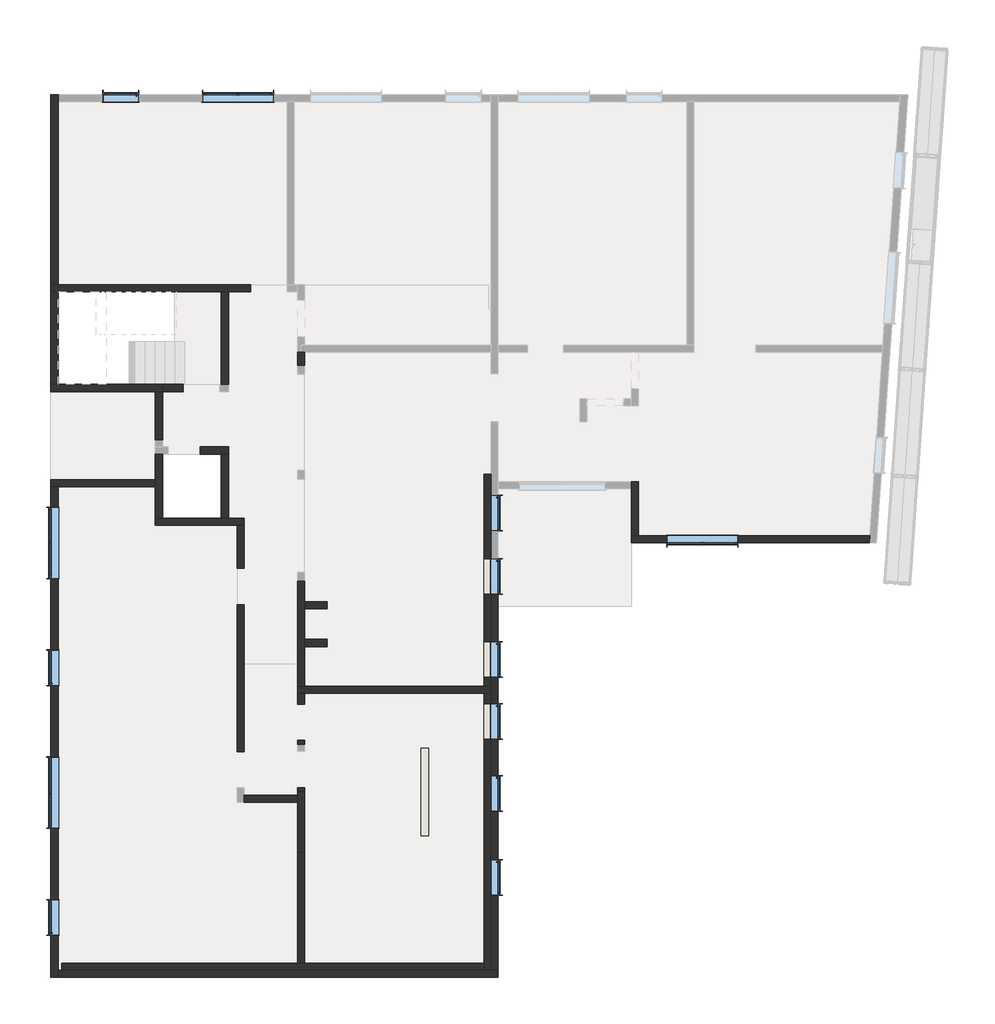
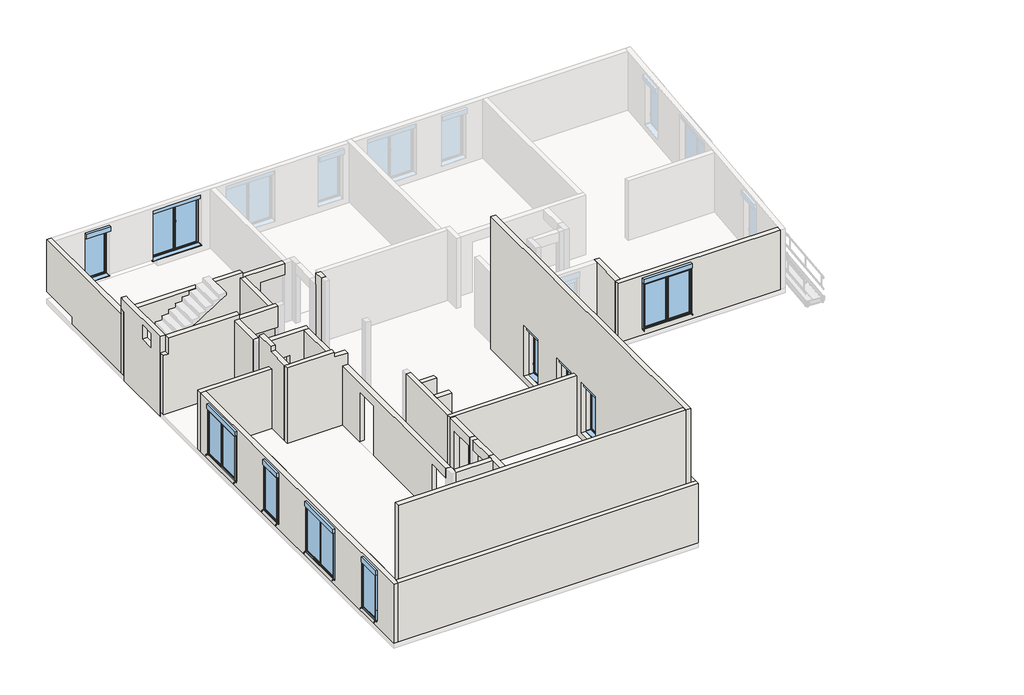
# One storey, part 1 of 3: 33 walls, 13 windows.
"""IFC4 building model written with IfcOpenShell, lengths in millimetres."""

from ifc_helpers import new_model, si_unit, frame, origin, place, context, project, spatial, polyline, outline, extrude, faceted_brep, transform, mapped, element, save
from components import window_200x100_8459d8a5, window_200x100_a15cc3b6, window_200x200_ecfd3ef9

model = new_model("IFC4")

# Units and contexts
model_context = context("Model", 3, world=origin())
ifc_project = project(units=[si_unit("LENGTHUNIT", "METRE", prefix="MILLI")], contexts=[model_context])

# Site, building, storey
site = spatial("IfcSite", under=ifc_project)
building = spatial("IfcBuilding", under=site)
storey = spatial("IfcBuildingStorey", under=building, Name="07-Plateau 7", Elevation=12400.0)

# Walls
placement = place(None, origin())
element("IfcWall", 1, ObjectType="Voile Banché 20 cm", at=placement, inside=storey, context=model_context, shape_type="Brep", body=[
    faceted_brep([(1012.9552204, -2140.1377724, 12250.0), (1012.9552204, -530.1377724, 12250.0), (1012.9552204, -530.1377724, 12570.0), (1012.9552204, -530.1377724, 15150.0), (1012.9552204, -2240.1377724, 15150.0), (1012.9552204, -2240.1377724, 12370.0), (1012.9552204, -2140.1377724, 12370.0), (812.9552204, -2140.1377724, 12250.0), (812.9552204, -2140.1377724, 12370.0), (812.9552204, -2240.1377724, 12370.0), (812.9552204, -2240.1377724, 15150.0), (812.9552204, -830.1377724, 15150.0), (812.9552204, -630.1377724, 15150.0), (812.9552204, -530.1377724, 15150.0), (812.9552204, -530.1377724, 12570.0), (812.9552204, -530.1377724, 12250.0)], [[[0, 1, 2, 3, 4, 5, 6]], [[7, 8, 9, 10, 11, 12, 13, 14, 15]], [[1, 0, 7, 15]], [[3, 2, 1, 15, 14, 13]], [[5, 4, 10, 9]], [[5, 9, 8, 6]], [[0, 6, 8, 7]], [[4, 3, 13, 12, 11, 10]]]),
])
element("IfcWall", 2, ObjectType="Voile Banché 20 cm", at=placement, inside=storey, context=model_context, shape_type="Brep", body=[
    faceted_brep([(1012.9552204, 2209.8622276, 12250.0), (1012.9552204, 2224.8622276, 12250.0), (1012.9552204, 2224.8622276, 15150.0), (1012.9552204, 2209.8622276, 15150.0), (1012.9552204, 2209.8622276, 12570.0), (812.9552204, 2209.8622276, 12250.0), (812.9552204, 2209.8622276, 12570.0), (812.9552204, 2209.8622276, 15150.0), (812.9552204, 2224.8622276, 15150.0), (812.9552204, 2224.8622276, 12370.0), (812.9552204, 2224.8622276, 12250.0)], [[[0, 1, 2, 3, 4]], [[5, 6, 7, 8, 9, 10]], [[1, 0, 5, 10]], [[0, 4, 3, 7, 6, 5]], [[2, 1, 10, 9, 8]], [[3, 2, 8, 7]]]),
])
element("IfcWall", 3, ObjectType="Voile Banché 20 cm", at=placement, inside=storey, context=model_context, shape_type="Brep", body=[
    faceted_brep([(-1227.0447796, 13479.8622276, 15350.0), (-5907.0447796, 13479.8622276, 15350.0), (-6107.0447796, 13479.8622276, 15350.0), (-6107.0447796, 13479.8622276, 15150.0), (-6107.0447796, 13479.8622276, 12570.0), (-1327.0447796, 13479.8622276, 12570.0), (-1127.0447796, 13479.8622276, 12570.0), (-498.4008372, 13479.8622276, 12570.0), (-498.4008372, 13479.8622276, 14668.9628566), (512.1565492, 13479.8622276, 14668.9628566), (512.1565492, 13479.8622276, 15150.0), (-1127.0447796, 13479.8622276, 15150.0), (-1227.0447796, 13479.8622276, 15150.0), (-6107.0447796, 13679.8622276, 12570.0), (-6107.0447796, 13679.8622276, 15150.0), (-6107.0447796, 13679.8622276, 15350.0), (-1227.0447796, 13679.8622276, 15350.0), (-1227.0447796, 13679.8622276, 15150.0), (512.1565492, 13679.8622276, 15150.0), (512.1565492, 13679.8622276, 14668.9628566), (-498.4008372, 13679.8622276, 14668.9628566), (-498.4008372, 13679.8622276, 12570.0), (-5907.0447796, 13679.8622276, 12570.0), (-6107.0447796, 13579.8622276, 15350.0)], [[[0, 1, 2, 3, 4, 5, 6, 7, 8, 9, 10, 11, 12]], [[13, 14, 15, 16, 17, 18, 19, 20, 21, 22]], [[8, 20, 19, 9]], [[20, 8, 7, 21]], [[2, 23, 15, 14, 13, 4, 3]], [[4, 13, 22, 21, 7, 6, 5]], [[18, 10, 9, 19]], [[2, 1, 0, 16, 15, 23]], [[0, 12, 17, 16]], [[12, 11, 10, 18, 17]]]),
])
element("IfcWall", 4, ObjectType="Voile Banché 20 cm", at=placement, inside=storey, context=model_context, shape_type="Brep", body=[
    faceted_brep([(16855.2742838, 6643.530828, 12570.0), (10373.5257924, 6643.530828, 12570.0), (10173.5257924, 6643.530828, 12570.0), (10173.5257924, 6643.530828, 15150.0), (10373.5257924, 6643.530828, 15150.0), (16855.2742838, 6643.530828, 15150.0), (13163.7774438, 6643.530828, 12840.0), (13163.7774438, 6643.530828, 15040.0), (11163.7774438, 6643.530828, 15040.0), (11163.7774438, 6643.530828, 12840.0), (10173.5257924, 6443.530828, 12570.0), (16841.2889214, 6443.530828, 12570.0), (16841.2889214, 6443.530828, 15150.0), (10173.5257924, 6443.530828, 15150.0), (10173.5257924, 6443.530828, 12590.0), (13163.7774438, 6443.530828, 15040.0), (13163.7774438, 6443.530828, 12840.0), (11163.7774438, 6443.530828, 12840.0), (11163.7774438, 6443.530828, 15040.0)], [[[0, 1, 2, 3, 4, 5], [6, 7, 8, 9]], [[10, 11, 12, 13, 14], [15, 16, 17, 18]], [[2, 1, 0, 11, 10]], [[3, 2, 10, 14, 13]], [[0, 5, 12, 11]], [[5, 4, 3, 13, 12]], [[6, 16, 15, 7]], [[7, 15, 18, 8]], [[8, 18, 17, 9]], [[16, 6, 9, 17]]]),
])
element("IfcWall", 5, ObjectType="Voile Banché 20 cm", at=placement, inside=storey, context=model_context, shape_type="Brep", body=[
    faceted_brep([(10373.5257924, 6643.530828, 12570.0), (10373.5257924, 8159.8622276, 12570.0), (10373.5257924, 8159.8622276, 15150.0), (10373.5257924, 6643.530828, 15150.0), (10173.5257924, 6643.530828, 12570.0), (10173.5257924, 6643.530828, 15150.0), (10173.5257924, 7959.8622276, 15150.0), (10173.5257924, 8159.8622276, 15150.0), (10173.5257924, 8159.8622276, 12570.0), (10173.5257924, 7959.8622276, 12570.0)], [[[0, 1, 2, 3]], [[4, 5, 6, 7, 8, 9]], [[1, 0, 4, 9, 8]], [[0, 3, 5, 4]], [[2, 1, 8, 7]], [[3, 2, 7, 6, 5]]]),
])
element("IfcWall", 6, ObjectType="Voile Banché 20 cm", at=placement, inside=storey, context=model_context, shape_type="Brep", body=[
    faceted_brep([(-6107.0447796, 18999.8622276, 12900.0), (-6107.0447796, 17149.8622276, 12900.0), (-6107.0447796, 17149.8622276, 12570.0), (-6107.0447796, 13679.8622276, 12570.0), (-6107.0447796, 13679.8622276, 15150.0), (-6107.0447796, 18999.8622276, 15150.0), (-5907.0447796, 18999.8622276, 12900.0), (-5907.0447796, 18999.8622276, 15150.0), (-5907.0447796, 18799.8622276, 15150.0), (-5907.0447796, 13679.8622276, 15150.0), (-5907.0447796, 13679.8622276, 12570.0), (-5907.0447796, 17149.8622276, 12570.0), (-5907.0447796, 17149.8622276, 12900.0), (-5907.0447796, 18799.8622276, 12900.0)], [[[0, 1, 2, 3, 4, 5]], [[6, 7, 8, 9, 10, 11, 12, 13]], [[0, 5, 7, 6]], [[4, 3, 10, 9]], [[5, 4, 9, 8, 7]], [[3, 2, 11, 10]], [[1, 0, 6, 13, 12]], [[2, 1, 12, 11]]]),
])
element("IfcWall", 7, ObjectType="Voile Banché 20 cm", at=placement, inside=storey, context=model_context, shape_type="Brep", body=[
    faceted_brep([(-6107.0447796, 10679.8622276, 12570.0), (-5907.0447796, 10679.8622276, 12570.0), (-3177.0447796, 10679.8622276, 12570.0), (-2977.0447796, 10679.8622276, 12570.0), (-2977.0447796, 10679.8622276, 15650.0), (-2977.0447796, 10679.8622276, 15850.0), (-5907.0447796, 10679.8622276, 15850.0), (-5907.0447796, 10679.8622276, 15760.0), (-5907.0447796, 10679.8622276, 15150.0), (-6107.0447796, 10679.8622276, 15150.0), (-6107.0447796, 10679.8622276, 12910.0), (-6107.0447796, 10879.8622276, 12570.0), (-6107.0447796, 10879.8622276, 15150.0), (-5907.0447796, 10879.8622276, 15150.0), (-5907.0447796, 10879.8622276, 15850.0), (-2977.0447796, 10879.8622276, 15850.0), (-2977.0447796, 10879.8622276, 15650.0), (-2977.0447796, 10879.8622276, 12570.0)], [[[0, 1, 2, 3, 4, 5, 6, 7, 8, 9, 10]], [[11, 12, 13, 14, 15, 16, 17]], [[5, 4, 3, 17, 16, 15]], [[3, 2, 1, 0, 11, 17]], [[6, 5, 15, 14]], [[0, 10, 9, 12, 11]], [[6, 14, 13, 8, 7]], [[8, 13, 12, 9]]]),
])
element("IfcWall", 8, ObjectType="Voile Banché 20 cm", at=placement, inside=storey, context=model_context, shape_type="SweptSolid", body=[
    extrude(outline(polyline([(-3177.0447796, 9329.8622276), (-3177.0447796, 10679.8622276), (-2977.0447796, 10679.8622276), (-2977.0447796, 9329.8622276), (-3177.0447796, 9329.8622276)])), frame((0.0, 0.0, 12570.0), z_axis=(0.0, 0.0, 1.0), x_axis=(1.0, 0.0, 0.0)), (0.0, 0.0, 1.0), 3080.0),
])
element("IfcWall", 9, ObjectType="Voile Banché 20 cm", at=placement, inside=storey, context=model_context, shape_type="Brep", body=[
    faceted_brep([(-1127.0447796, 8929.8622276, 12570.0), (-1127.0447796, 8929.8622276, 15650.0), (-1327.0447796, 8929.8622276, 15650.0), (-2817.0447796, 8929.8622276, 15650.0), (-2817.0447796, 8929.8622276, 14740.0), (-1917.0447796, 8929.8622276, 14740.0), (-1917.0447796, 8929.8622276, 12570.0), (-1327.0447796, 8929.8622276, 12570.0), (-1127.0447796, 9129.8622276, 15650.0), (-1127.0447796, 9129.8622276, 12570.0), (-1917.0447796, 9129.8622276, 12570.0), (-1917.0447796, 9129.8622276, 14740.0), (-2817.0447796, 9129.8622276, 14740.0), (-2817.0447796, 9129.8622276, 15650.0)], [[[0, 1, 2, 3, 4, 5, 6, 7]], [[8, 9, 10, 11, 12, 13]], [[9, 0, 7, 6, 10]], [[3, 13, 12, 4]], [[11, 5, 4, 12]], [[5, 11, 10, 6]], [[1, 0, 9, 8]], [[3, 2, 1, 8, 13]]]),
])
element("IfcWall", 10, ObjectType="Voile Banché 20 cm", at=placement, inside=storey, context=model_context, shape_type="Brep", body=[
    faceted_brep([(-6107.0447796, 8009.8622276, 12570.0), (-6107.0447796, -5740.1377724, 12570.0), (-6107.0447796, -5740.1377724, 15150.0), (-6107.0447796, 8009.8622276, 15150.0), (-6107.0447796, 2439.8622276, 15040.0), (-6107.0447796, 2439.8622276, 12840.0), (-6107.0447796, 3439.8622276, 12840.0), (-6107.0447796, 3439.8622276, 15040.0), (-6107.0447796, -4560.1377724, 15040.0), (-6107.0447796, -4560.1377724, 12840.0), (-6107.0447796, -3560.1377724, 12840.0), (-6107.0447796, -3560.1377724, 15040.0), (-6107.0447796, -1560.1377724, 15040.0), (-6107.0447796, -1560.1377724, 12840.0), (-6107.0447796, 439.8622276, 12840.0), (-6107.0447796, 439.8622276, 15040.0), (-6107.0447796, 5439.8622276, 15040.0), (-6107.0447796, 5439.8622276, 12840.0), (-6107.0447796, 7439.8622276, 12840.0), (-6107.0447796, 7439.8622276, 15040.0), (-5907.0447796, -5740.1377724, 12570.0), (-5907.0447796, -5540.1377724, 12570.0), (-5907.0447796, 8009.8622276, 12570.0), (-5907.0447796, 8009.8622276, 15150.0), (-5907.0447796, -5540.1377724, 15150.0), (-5907.0447796, -5740.1377724, 15150.0), (-5907.0447796, 2439.8622276, 12840.0), (-5907.0447796, 2439.8622276, 15040.0), (-5907.0447796, 3439.8622276, 15040.0), (-5907.0447796, 3439.8622276, 12840.0), (-5907.0447796, -4560.1377724, 12840.0), (-5907.0447796, -4560.1377724, 15040.0), (-5907.0447796, -3560.1377724, 15040.0), (-5907.0447796, -3560.1377724, 12840.0), (-5907.0447796, -1560.1377724, 12840.0), (-5907.0447796, -1560.1377724, 15040.0), (-5907.0447796, 439.8622276, 15040.0), (-5907.0447796, 439.8622276, 12840.0), (-5907.0447796, 5439.8622276, 12840.0), (-5907.0447796, 5439.8622276, 15040.0), (-5907.0447796, 7439.8622276, 15040.0), (-5907.0447796, 7439.8622276, 12840.0)], [[[0, 1, 2, 3], [4, 5, 6, 7], [8, 9, 10, 11], [12, 13, 14, 15], [16, 17, 18, 19]], [[20, 21, 22, 23, 24, 25], [26, 27, 28, 29], [30, 31, 32, 33], [34, 35, 36, 37], [38, 39, 40, 41]], [[1, 0, 22, 21, 20]], [[0, 3, 23, 22]], [[2, 1, 20, 25]], [[3, 2, 25, 24, 23]], [[26, 5, 4, 27]], [[27, 4, 7, 28]], [[28, 7, 6, 29]], [[5, 26, 29, 6]], [[30, 9, 8, 31]], [[31, 8, 11, 32]], [[32, 11, 10, 33]], [[9, 30, 33, 10]], [[35, 34, 13, 12]], [[36, 35, 12, 15]], [[37, 36, 15, 14]], [[34, 37, 14, 13]], [[38, 17, 16, 39]], [[39, 16, 19, 40]], [[40, 19, 18, 41]], [[17, 38, 41, 18]]]),
])
element("IfcWall", 11, ObjectType="Voile Banché 20 cm", at=placement, inside=storey, context=model_context, shape_type="Brep", body=[
    faceted_brep([(-5907.0447796, -5740.1377724, 12570.0), (6432.9552204, -5740.1377724, 12570.0), (6432.9552204, -5740.1377724, 15150.0), (-5907.0447796, -5740.1377724, 15150.0), (-5907.0447796, -5540.1377724, 12570.0), (-5907.0447796, -5540.1377724, 15150.0), (812.9552204, -5540.1377724, 15150.0), (1012.9552204, -5540.1377724, 15150.0), (6232.9552204, -5540.1377724, 15150.0), (6432.9552204, -5540.1377724, 15150.0), (6432.9552204, -5540.1377724, 12570.0), (6232.9552204, -5540.1377724, 12570.0)], [[[0, 1, 2, 3]], [[4, 5, 6, 7, 8, 9, 10, 11]], [[1, 0, 4, 11, 10]], [[2, 1, 10, 9]], [[0, 3, 5, 4]], [[3, 2, 9, 8, 7, 6, 5]]]),
])
element("IfcWall", 12, ObjectType="Voile Banché 20 cm", at=placement, inside=storey, context=model_context, shape_type="SweptSolid", body=[
    extrude(outline(polyline([(-430.1377724, 15150.0), (6929.8622276, 15150.0), (6929.8622276, 12570.0), (5729.8622276, 12570.0), (5729.8622276, 14740.0), (4709.8622276, 14740.0), (4709.8622276, 12570.0), (592.8184067, 12570.0), (592.8184067, 14740.0), (-430.1377724, 14740.0), (-430.1377724, 15150.0)])), frame((-887.0447796, 0.0, 0.0), z_axis=(1.0, 0.0, 0.0), x_axis=(0.0, 1.0, 0.0)), (0.0, 0.0, 1.0), 200.0),
])
element("IfcWall", 13, ObjectType="Voile Banché 20 cm", at=placement, inside=storey, context=model_context, shape_type="Brep", body=[
    faceted_brep([(1012.9552204, 2424.8622276, 12570.0), (1012.9552204, 3534.8622276, 12570.0), (1012.9552204, 3734.8622276, 12570.0), (1012.9552204, 4594.8622276, 12570.0), (1012.9552204, 4794.8622276, 12570.0), (1012.9552204, 5362.4340998, 12570.0), (1012.9552204, 5362.4340998, 15150.0), (1012.9552204, 4794.8622276, 15150.0), (1012.9552204, 4594.8622276, 15150.0), (1012.9552204, 3734.8622276, 15150.0), (1012.9552204, 3534.8622276, 15150.0), (1012.9552204, 2424.8622276, 15150.0), (812.9552204, 2424.8622276, 12570.0), (812.9552204, 2424.8622276, 15150.0), (812.9552204, 5362.4340998, 15150.0), (812.9552204, 5362.4340998, 12570.0)], [[[0, 1, 2, 3, 4, 5, 6, 7, 8, 9, 10, 11]], [[12, 13, 14, 15]], [[5, 4, 3, 2, 1, 0, 12, 15]], [[6, 5, 15, 14]], [[0, 11, 13, 12]], [[11, 10, 9, 8, 7, 6, 14, 13]]]),
])
element("IfcWall", 14, ObjectType="Voile Banché 20 cm", at=placement, inside=storey, context=model_context, shape_type="Brep", body=[
    faceted_brep([(-6107.0447796, 8009.8622276, 12570.0), (-5907.0447796, 8009.8622276, 12570.0), (-3177.0447796, 8009.8622276, 12570.0), (-3177.0447796, 8009.8622276, 15150.0), (-5907.0447796, 8009.8622276, 15150.0), (-6107.0447796, 8009.8622276, 15150.0), (-6107.0447796, 8209.8622276, 12570.0), (-6107.0447796, 8209.8622276, 12910.0), (-6107.0447796, 8209.8622276, 15150.0), (-3177.0447796, 8209.8622276, 15150.0), (-3177.0447796, 8209.8622276, 12570.0), (-5907.0447796, 8209.8622276, 12570.0)], [[[0, 1, 2, 3, 4, 5]], [[6, 7, 8, 9, 10, 11]], [[2, 1, 0, 6, 11, 10]], [[0, 5, 8, 7, 6]], [[5, 4, 3, 9, 8]], [[3, 2, 10, 9]]]),
])
element("IfcWall", 15, ObjectType="Voile Banché 20 cm", at=placement, inside=storey, context=model_context, shape_type="Brep", body=[
    faceted_brep([(-687.0447796, 7129.8622276, 12570.0), (-1127.0447796, 7129.8622276, 12570.0), (-1327.0447796, 7129.8622276, 12570.0), (-2977.0447796, 7129.8622276, 12570.0), (-3177.0447796, 7129.8622276, 12570.0), (-3177.0447796, 7129.8622276, 15370.0), (-3177.0447796, 7129.8622276, 15850.0), (-2977.0447796, 7129.8622276, 15850.0), (-1227.0447796, 7129.8622276, 15850.0), (-1227.0447796, 7129.8622276, 15650.0), (-1127.0447796, 7129.8622276, 15650.0), (-687.0447796, 7129.8622276, 15650.0), (-687.0447796, 7129.8622276, 15370.0), (-687.0447796, 7129.8622276, 15150.0), (-687.0447796, 7129.8622276, 15140.0), (-687.0447796, 6929.8622276, 12570.0), (-687.0447796, 6929.8622276, 15140.0), (-687.0447796, 6929.8622276, 15150.0), (-687.0447796, 6929.8622276, 15370.0), (-687.0447796, 6929.8622276, 15650.0), (-1227.0447796, 6929.8622276, 15650.0), (-1227.0447796, 6929.8622276, 15850.0), (-2977.0447796, 6929.8622276, 15850.0), (-3177.0447796, 6929.8622276, 15850.0), (-3177.0447796, 6929.8622276, 12570.0), (-887.0447796, 6929.8622276, 12570.0)], [[[0, 1, 2, 3, 4, 5, 6, 7, 8, 9, 10, 11, 12, 13, 14]], [[15, 16, 17, 18, 19, 20, 21, 22, 23, 24, 25]], [[0, 14, 13, 12, 11, 19, 18, 17, 16, 15]], [[4, 3, 2, 1, 0, 15, 25, 24]], [[8, 7, 6, 23, 22, 21]], [[11, 10, 9, 20, 19]], [[9, 8, 21, 20]], [[4, 24, 23, 6, 5]]]),
])
element("IfcWall", 16, ObjectType="Voile Banché 20 cm", at=placement, inside=storey, context=model_context, shape_type="SweptSolid", body=[
    extrude(outline(polyline([(-530.1377724, 15150.0), (602.4340998, 15150.0), (602.4340998, 14740.0), (-417.5659002, 14740.0), (-417.5659002, 12570.0), (-530.1377724, 12570.0), (-530.1377724, 15150.0)])), frame((812.9552204, 0.0, 0.0), z_axis=(1.0, 0.0, 0.0), x_axis=(0.0, 1.0, 0.0)), (0.0, 0.0, 1.0), 200.0),
])
element("IfcWall", 17, ObjectType="Voile Banché 20 cm", at=placement, inside=storey, context=model_context, shape_type="SweptSolid", body=[
    extrude(outline(polyline([(2209.8622276, 15150.0), (2209.8622276, 12570.0), (1922.4340998, 12570.0), (1922.4340998, 14740.0), (902.4340998, 14740.0), (902.4340998, 12570.0), (802.4340998, 12570.0), (802.4340998, 15150.0), (2209.8622276, 15150.0)])), frame((812.9552204, 0.0, 0.0), z_axis=(1.0, 0.0, 0.0), x_axis=(0.0, 1.0, 0.0)), (0.0, 0.0, 1.0), 200.0),
])
element("IfcWall", 18, ObjectType="Voile Banché 20 cm", at=placement, inside=storey, context=model_context, shape_type="Brep", body=[
    faceted_brep([(812.9552204, -630.1377724, 12570.0), (-687.0447796, -630.1377724, 12570.0), (-687.0447796, -630.1377724, 15150.0), (812.9552204, -630.1377724, 15150.0), (812.9552204, -830.1377724, 12570.0), (812.9552204, -830.1377724, 15150.0), (-687.0447796, -830.1377724, 15150.0), (-687.0447796, -830.1377724, 12570.0), (812.9552204, -730.1377724, 12570.0), (-687.0447796, -730.1377724, 12570.0)], [[[0, 1, 2, 3]], [[4, 5, 6, 7]], [[1, 0, 8, 4, 7, 9]], [[2, 1, 9, 7, 6]], [[0, 3, 5, 4, 8]], [[3, 2, 6, 5]]]),
])
element("IfcWall", 19, ObjectType="Voile Banché 20 cm", at=placement, inside=storey, context=model_context, shape_type="Brep", body=[
    faceted_brep([(-1327.0447796, 8929.8622276, 12570.0), (-1327.0447796, 7129.8622276, 12570.0), (-1327.0447796, 7129.8622276, 15650.0), (-1327.0447796, 8929.8622276, 15650.0), (-1127.0447796, 8929.8622276, 12570.0), (-1127.0447796, 8929.8622276, 15650.0), (-1127.0447796, 7129.8622276, 15650.0), (-1127.0447796, 7129.8622276, 12570.0), (-1227.0447796, 7129.8622276, 15650.0)], [[[0, 1, 2, 3]], [[4, 5, 6, 7]], [[1, 0, 4, 7]], [[0, 3, 5, 4]], [[3, 2, 8, 6, 5]], [[1, 7, 6, 8, 2]]]),
])
element("IfcWall", 20, ObjectType="Voile Banché 20 cm", at=placement, inside=storey, context=model_context, shape_type="SweptSolid", body=[
    extrude(outline(polyline([(15650.0, -2977.0447796), (12570.0, -2977.0447796), (12570.0, -2397.0447796), (14740.0, -2397.0447796), (14740.0, -1377.0447796), (15650.0, -1377.0447796), (15650.0, -2977.0447796)])), frame((0.0, 10679.8622276, 0.0), z_axis=(0.0, 1.0, 0.0), x_axis=(0.0, 0.0, 1.0)), (0.0, 0.0, 1.0), 200.0),
])
element("IfcWall", 21, ObjectType="Voile Banché 20 cm", at=placement, inside=storey, context=model_context, shape_type="Brep", body=[
    faceted_brep([(-1127.0447796, 10879.8622276, 12570.0), (-1127.0447796, 13479.8622276, 12570.0), (-1127.0447796, 13479.8622276, 15150.0), (-1127.0447796, 11979.5762916, 15150.0), (-1127.0447796, 11779.5762916, 15150.0), (-1127.0447796, 10879.8622276, 15150.0), (-1327.0447796, 10879.8622276, 12570.0), (-1327.0447796, 10879.8622276, 15150.0), (-1327.0447796, 13479.8622276, 15150.0), (-1327.0447796, 13479.8622276, 12570.0), (-1227.0447796, 13479.8622276, 15150.0)], [[[0, 1, 2, 3, 4, 5]], [[6, 7, 8, 9]], [[1, 0, 6, 9]], [[5, 4, 3, 2, 10, 8, 7]], [[0, 5, 7, 6]], [[2, 1, 9, 8, 10]]]),
])
element("IfcWall", 22, ObjectType="Voile Banché 20 cm", at=placement, inside=storey, context=model_context, shape_type="Brep", body=[
    faceted_brep([(-3177.0447796, 8929.8622276, 12570.0), (-3177.0447796, 8209.8622276, 12570.0), (-3177.0447796, 8009.8622276, 12570.0), (-3177.0447796, 7129.8622276, 12570.0), (-3177.0447796, 7129.8622276, 15850.0), (-3177.0447796, 8109.8622276, 15850.0), (-3177.0447796, 8109.8622276, 16070.0), (-3177.0447796, 8929.8622276, 16070.0), (-3177.0447796, 8929.8622276, 15850.0), (-3177.0447796, 8929.8622276, 15650.0), (-2977.0447796, 8929.8622276, 12570.0), (-2977.0447796, 8929.8622276, 15850.0), (-2977.0447796, 8929.8622276, 16070.0), (-2977.0447796, 8109.8622276, 16070.0), (-2977.0447796, 8109.8622276, 15850.0), (-2977.0447796, 7129.8622276, 15850.0), (-2977.0447796, 7129.8622276, 12570.0)], [[[0, 1, 2, 3, 4, 5, 6, 7, 8, 9]], [[10, 11, 12, 13, 14, 15, 16]], [[3, 2, 1, 0, 10, 16]], [[5, 4, 15, 14]], [[0, 9, 8, 11, 10]], [[6, 5, 14, 13]], [[7, 6, 13, 12]], [[8, 7, 12, 11]], [[3, 16, 15, 4]]]),
])
element("IfcWall", 23, ObjectType="Acrotère BA 20 cm", at=placement, inside=storey, context=model_context, shape_type="Brep", body=[
    faceted_brep([(4278.3552204, 677.5337635, 12340.0), (4278.3552204, -1770.1377724, 12340.0), (4278.3552204, -1770.1377724, 12370.0), (4278.3552204, -1770.1377724, 13440.0), (4278.3552204, 677.5337635, 13440.0), (4278.3552204, 677.5337635, 12370.0), (4478.3552204, 677.5337635, 12340.0), (4478.3552204, 677.5337635, 12370.0), (4478.3552204, 677.5337635, 13440.0), (4478.3552204, -1770.1377724, 13440.0), (4478.3552204, -1770.1377724, 12370.0), (4478.3552204, -1770.1377724, 12340.0)], [[[0, 1, 2, 3, 4, 5]], [[6, 7, 8, 9, 10, 11]], [[1, 0, 6, 11]], [[3, 2, 1, 11, 10, 9]], [[4, 3, 9, 8]], [[0, 5, 4, 8, 7, 6]]]),
])
element("IfcWall", 24, ObjectType="Doublage", at=placement, inside=storey, context=model_context, shape_type="Brep", body=[
    faceted_brep([(6032.9552204, 8359.8622276, 12570.0), (6032.9552204, -5340.1377724, 12570.0), (6032.9552204, -5540.1377724, 12570.0), (6032.9552204, -5540.1377724, 18360.0), (6032.9552204, -5340.1377724, 18360.0), (6032.9552204, 8359.8622276, 18360.0), (6032.9552204, 3667.6540073, 12840.0), (6032.9552204, 3667.6540073, 15040.0), (6032.9552204, 2667.6540073, 15040.0), (6032.9552204, 2667.6540073, 12840.0), (6032.9552204, 1929.8622276, 12840.0), (6032.9552204, 1929.8622276, 15040.0), (6032.9552204, 929.8622276, 15040.0), (6032.9552204, 929.8622276, 12840.0), (6032.9552204, 5999.8622276, 12840.0), (6032.9552204, 5999.8622276, 15040.0), (6032.9552204, 4999.8622276, 15040.0), (6032.9552204, 4999.8622276, 12840.0), (6232.9552204, -5540.1377724, 12570.0), (6232.9552204, 5999.8622276, 12570.0), (6232.9552204, 6779.8622276, 12570.0), (6232.9552204, 8359.8622276, 12570.0), (6232.9552204, 8359.8622276, 18360.0), (6232.9552204, -5540.1377724, 18360.0), (6232.9552204, 3667.6540073, 15040.0), (6232.9552204, 3667.6540073, 12840.0), (6232.9552204, 2667.6540073, 12840.0), (6232.9552204, 2667.6540073, 15040.0), (6232.9552204, 1929.8622276, 15040.0), (6232.9552204, 1929.8622276, 12840.0), (6232.9552204, 929.8622276, 12840.0), (6232.9552204, 929.8622276, 15040.0), (6232.9552204, 5999.8622276, 15040.0), (6232.9552204, 5999.8622276, 12840.0), (6232.9552204, 4999.8622276, 12840.0), (6232.9552204, 4999.8622276, 15040.0)], [[[0, 1, 2, 3, 4, 5], [6, 7, 8, 9], [10, 11, 12, 13], [14, 15, 16, 17]], [[18, 19, 20, 21, 22, 23], [24, 25, 26, 27], [28, 29, 30, 31], [32, 33, 34, 35]], [[2, 1, 0, 21, 20, 19, 18]], [[5, 4, 3, 23, 22]], [[0, 5, 22, 21]], [[3, 2, 18, 23]], [[6, 25, 24, 7]], [[7, 24, 27, 8]], [[8, 27, 26, 9]], [[25, 6, 9, 26]], [[10, 29, 28, 11]], [[11, 28, 31, 12]], [[12, 31, 30, 13]], [[29, 10, 13, 30]], [[14, 33, 32, 15]], [[15, 32, 35, 16]], [[16, 35, 34, 17]], [[33, 14, 17, 34]]]),
])
element("IfcWall", 25, ObjectType="Doublage", at=placement, inside=storey, context=model_context, shape_type="SweptSolid", body=[
    extrude(outline(polyline([(-5807.0447796, -5340.1377724), (6032.9552204, -5340.1377724), (6032.9552204, -5540.1377724), (-5807.0447796, -5540.1377724), (-5807.0447796, -5340.1377724)])), frame((0.0, 0.0, 12570.0), z_axis=(0.0, 0.0, 1.0), x_axis=(1.0, 0.0, 0.0)), (0.0, 0.0, 1.0), 5790.0),
])
element("IfcWall", 26, ObjectType="Poutre voile 20cm", at=placement, inside=storey, context=model_context, shape_type="SweptSolid", body=[
    extrude(outline(polyline([(1229.8622276, 12570.0), (-5540.1377724, 12570.0), (-5540.1377724, 15150.0), (1229.8622276, 15150.0), (1229.8622276, 15040.0), (929.8622276, 15040.0), (929.8622276, 12840.0), (1229.8622276, 12840.0), (1229.8622276, 12570.0)]), holes=[polyline([(-2440.1377724, 12840.0), (-2440.1377724, 15040.0), (-3440.1377724, 15040.0), (-3440.1377724, 12840.0), (-2440.1377724, 12840.0)]), polyline([(-80.1377724, 12840.0), (-80.1377724, 15040.0), (-1080.1377724, 15040.0), (-1080.1377724, 12840.0), (-80.1377724, 12840.0)])]), frame((6232.9552204, 0.0, 0.0), z_axis=(1.0, 0.0, 0.0), x_axis=(0.0, 1.0, 0.0)), (0.0, 0.0, 1.0), 200.0),
])
element("IfcWall", 27, ObjectType="Poutre voile 20cm", at=placement, inside=storey, context=model_context, shape_type="Brep", body=[
    faceted_brep([(812.9552204, 2224.8622276, 15150.0), (812.9552204, 2224.8622276, 12370.0), (6232.9552204, 2224.8622276, 12370.0), (6232.9552204, 2224.8622276, 15150.0), (1012.9552204, 2224.8622276, 15150.0), (812.9552204, 2424.8622276, 12370.0), (812.9552204, 2424.8622276, 12570.0), (812.9552204, 2424.8622276, 15150.0), (1012.9552204, 2424.8622276, 15150.0), (6232.9552204, 2424.8622276, 15150.0), (6232.9552204, 2424.8622276, 12370.0)], [[[0, 1, 2, 3, 4]], [[5, 6, 7, 8, 9, 10]], [[2, 1, 5, 10]], [[3, 2, 10, 9]], [[0, 7, 6, 5, 1]], [[0, 4, 3, 9, 8, 7]]]),
])
element("IfcWall", 28, ObjectType="Poutre voile 20cm", at=placement, inside=storey, context=model_context, shape_type="Brep", body=[
    faceted_brep([(6432.9552204, 1229.8622276, 12570.0), (6432.9552204, 5999.8622276, 12570.0), (6432.9552204, 5999.8622276, 12840.0), (6432.9552204, 4999.8622276, 12840.0), (6432.9552204, 4999.8622276, 15040.0), (6432.9552204, 5999.8622276, 15040.0), (6432.9552204, 5999.8622276, 15150.0), (6432.9552204, 2324.8622276, 15150.0), (6432.9552204, 1229.8622276, 15150.0), (6432.9552204, 1229.8622276, 15040.0), (6432.9552204, 1929.8622276, 15040.0), (6432.9552204, 1929.8622276, 12840.0), (6432.9552204, 1229.8622276, 12840.0), (6432.9552204, 3667.6540073, 15040.0), (6432.9552204, 3667.6540073, 12840.0), (6432.9552204, 2667.6540073, 12840.0), (6432.9552204, 2667.6540073, 15040.0), (6232.9552204, 5999.8622276, 12570.0), (6232.9552204, 1229.8622276, 12570.0), (6232.9552204, 1229.8622276, 12840.0), (6232.9552204, 1929.8622276, 12840.0), (6232.9552204, 1929.8622276, 15040.0), (6232.9552204, 1229.8622276, 15040.0), (6232.9552204, 1229.8622276, 15150.0), (6232.9552204, 2224.8622276, 15150.0), (6232.9552204, 2324.8622276, 15150.0), (6232.9552204, 2424.8622276, 15150.0), (6232.9552204, 5999.8622276, 15150.0), (6232.9552204, 5999.8622276, 15040.0), (6232.9552204, 4999.8622276, 15040.0), (6232.9552204, 4999.8622276, 12840.0), (6232.9552204, 5999.8622276, 12840.0), (6232.9552204, 3667.6540073, 12840.0), (6232.9552204, 3667.6540073, 15040.0), (6232.9552204, 2667.6540073, 15040.0), (6232.9552204, 2667.6540073, 12840.0)], [[[0, 1, 2, 3, 4, 5, 6, 7, 8, 9, 10, 11, 12], [13, 14, 15, 16]], [[17, 18, 19, 20, 21, 22, 23, 24, 25, 26, 27, 28, 29, 30, 31], [32, 33, 34, 35]], [[1, 0, 18, 17]], [[1, 17, 31, 2]], [[8, 7, 25, 24, 23]], [[8, 23, 22, 9]], [[18, 0, 12, 19]], [[27, 6, 5, 28]], [[7, 6, 27, 26, 25]], [[20, 11, 10, 21]], [[21, 10, 9, 22]], [[11, 20, 19, 12]], [[4, 29, 28, 5]], [[29, 4, 3, 30]], [[30, 3, 2, 31]], [[32, 14, 13, 33]], [[33, 13, 16, 34]], [[34, 16, 15, 35]], [[14, 32, 35, 15]]]),
])
element("IfcWall", 29, ObjectType="Poutre voile 20cm", at=placement, inside=storey, context=model_context, shape_type="SweptSolid", body=[
    extrude(outline(polyline([(1632.9552204, 4594.8622276), (1012.9552204, 4594.8622276), (1012.9552204, 4794.8622276), (1632.9552204, 4794.8622276), (1632.9552204, 4594.8622276)])), frame((0.0, 0.0, 12570.0), z_axis=(0.0, 0.0, 1.0), x_axis=(1.0, 0.0, 0.0)), (0.0, 0.0, 1.0), 2580.0),
])
element("IfcWall", 30, ObjectType="Poutre voile 20cm", at=placement, inside=storey, context=model_context, shape_type="Brep", body=[
    faceted_brep([(1012.9552204, -5540.1377724, 12370.0), (1012.9552204, -2240.1377724, 12370.0), (1012.9552204, -2240.1377724, 15150.0), (1012.9552204, -5540.1377724, 15150.0), (812.9552204, -5540.1377724, 12370.0), (812.9552204, -5540.1377724, 15150.0), (812.9552204, -2240.1377724, 15150.0), (812.9552204, -2240.1377724, 12370.0), (812.9552204, -2340.1377724, 12370.0)], [[[0, 1, 2, 3]], [[4, 5, 6, 7, 8]], [[1, 0, 4, 8, 7]], [[2, 1, 7, 6]], [[0, 3, 5, 4]], [[3, 2, 6, 5]]]),
])
element("IfcWall", 31, ObjectType="Poutre voile 20cm", at=placement, inside=storey, context=model_context, shape_type="SweptSolid", body=[
    extrude(outline(polyline([(1632.9552204, 3534.8622276), (1012.9552204, 3534.8622276), (1012.9552204, 3734.8622276), (1632.9552204, 3734.8622276), (1632.9552204, 3534.8622276)])), frame((0.0, 0.0, 12570.0), z_axis=(0.0, 0.0, 1.0), x_axis=(1.0, 0.0, 0.0)), (0.0, 0.0, 1.0), 2580.0),
])
element("IfcWall", 32, ObjectType="Poutre voile 20cm", at=placement, inside=storey, context=model_context, shape_type="Brep", body=[
    faceted_brep([(812.9552204, 11779.5762916, 12570.0), (812.9552204, 11417.4340998, 12570.0), (812.9552204, 11417.4340998, 15650.0), (812.9552204, 11779.5762916, 15650.0), (812.9552204, 11779.5762916, 15150.0), (1012.9552204, 11779.5762916, 12570.0), (1012.9552204, 11779.5762916, 15150.0), (1012.9552204, 11779.5762916, 15370.0), (1012.9552204, 11779.5762916, 15620.0), (1012.9552204, 11417.4340998, 15620.0), (1012.9552204, 11417.4340998, 12570.0), (1008.9552204, 11417.4340998, 15620.0), (1008.9552204, 11417.4340998, 15650.0), (1008.9552204, 11779.5762916, 15650.0), (1008.9552204, 11779.5762916, 15620.0)], [[[0, 1, 2, 3, 4]], [[5, 6, 7, 8, 9, 10]], [[1, 0, 5, 10]], [[2, 1, 10, 9, 11, 12]], [[0, 4, 3, 13, 14, 8, 7, 6, 5]], [[3, 2, 12, 13]], [[11, 9, 8, 14]], [[13, 12, 11, 14]]]),
])
element("IfcWall", 33, ObjectType="Voile", at=placement, inside=storey, context=model_context, shape_type="Brep", body=[
    faceted_brep([(-6107.0447796, 13479.8622276, 12370.0), (-6107.0447796, 10879.8622276, 12370.0), (-6107.0447796, 10879.8622276, 12570.0), (-6107.0447796, 10879.8622276, 15150.0), (-6107.0447796, 10879.8622276, 15760.0), (-6107.0447796, 10879.8622276, 15850.0), (-6107.0447796, 13479.8622276, 15850.0), (-6107.0447796, 13679.8622276, 15850.0), (-6107.0447796, 13679.8622276, 15370.0), (-6107.0447796, 13579.8622276, 15370.0), (-6107.0447796, 13579.8622276, 15350.0), (-6107.0447796, 13479.8622276, 15350.0), (-6107.0447796, 13479.8622276, 12570.0), (-6107.0447796, 12154.8622276, 14980.0), (-6107.0447796, 12154.8622276, 15580.0), (-6107.0447796, 11554.8622276, 15580.0), (-6107.0447796, 11554.8622276, 14980.0), (-5907.0447796, 10879.8622276, 12370.0), (-5907.0447796, 13479.8622276, 12370.0), (-5907.0447796, 13479.8622276, 15350.0), (-5907.0447796, 13579.8622276, 15350.0), (-5907.0447796, 13579.8622276, 15370.0), (-5907.0447796, 13679.8622276, 15370.0), (-5907.0447796, 13679.8622276, 15850.0), (-5907.0447796, 13479.8622276, 15850.0), (-5907.0447796, 10879.8622276, 15850.0), (-5907.0447796, 12154.8622276, 15580.0), (-5907.0447796, 12154.8622276, 14980.0), (-5907.0447796, 11554.8622276, 14980.0), (-5907.0447796, 11554.8622276, 15580.0)], [[[0, 1, 2, 3, 4, 5, 6, 7, 8, 9, 10, 11, 12], [13, 14, 15, 16]], [[17, 18, 19, 20, 21, 22, 23, 24, 25], [26, 27, 28, 29]], [[1, 0, 18, 17]], [[7, 6, 5, 25, 24, 23]], [[13, 27, 26, 14]], [[15, 29, 28, 16]], [[27, 13, 16, 28]], [[10, 20, 19, 11]], [[20, 10, 9, 21]], [[22, 21, 9, 8]], [[18, 0, 12, 11, 19]], [[7, 23, 22, 8]], [[1, 17, 25, 5, 4, 3, 2]], [[29, 15, 14, 26]]]),
])

# Windows
window_200x100_shape = window_200x100_8459d8a5(model_context)
element("IfcWindow", 34, ObjectType="Tunnel 1V+VR+ Voile : 200x100", at=placement, inside=storey, context=model_context, shape_type="MappedRepresentation", body=[
    mapped(window_200x100_shape, transform((-6007.0447796, 2939.8622276, 12040.0), x_axis=(0.0, 1.0, 0.0), y_axis=(-1.0, 0.0, 0.0), z_axis=(0.0, 0.0, 1.0))),
])
element("IfcWindow", 35, ObjectType="Tunnel 1V+VR+ Voile : 200x100", at=placement, inside=storey, context=model_context, shape_type="MappedRepresentation", body=[
    mapped(window_200x100_shape, transform((-6007.0447796, -4060.1377724, 12040.0), x_axis=(0.0, 1.0, 0.0), y_axis=(-1.0, 0.0, 0.0), z_axis=(0.0, 0.0, 1.0))),
])
element("IfcWindow", 36, ObjectType="Tunnel 1V+VR+ Voile : 200x100", at=placement, inside=storey, context=model_context, shape_type="MappedRepresentation", body=[
    mapped(window_200x100_shape, transform((6332.9552204, 7279.8622276, 12040.0), x_axis=(0.0, -1.0, 0.0), y_axis=(1.0, 0.0, 0.0), z_axis=(0.0, 0.0, 1.0))),
])
window_200x100_2_shape = window_200x100_a15cc3b6(model_context)
element("IfcWindow", 37, ObjectType="Tunnel 1V+VR+ Voile : 200x100", at=placement, inside=storey, context=model_context, shape_type="MappedRepresentation", body=[
    mapped(window_200x100_2_shape, transform((-4147.0447796, 18899.8622276, 12040.0), x_axis=(-1.0, 0.0, 0.0), y_axis=(0.0, -1.0, 0.0), z_axis=(0.0, 0.0, 1.0))),
])
element("IfcWindow", 38, ObjectType="Tunnel 1V+VR+ Voile : 200x100", at=placement, inside=storey, context=model_context, shape_type="MappedRepresentation", body=[
    mapped(window_200x100_shape, transform((6332.9552204, -2940.1377724, 12040.0), x_axis=(0.0, -1.0, 0.0), y_axis=(1.0, 0.0, 0.0), z_axis=(0.0, 0.0, 1.0))),
])
element("IfcWindow", 39, ObjectType="Tunnel 1V+VR+ Voile : 200x100", at=placement, inside=storey, context=model_context, shape_type="MappedRepresentation", body=[
    mapped(window_200x100_shape, transform((6332.9552204, -580.1377724, 12040.0), x_axis=(0.0, -1.0, 0.0), y_axis=(1.0, 0.0, 0.0), z_axis=(0.0, 0.0, 1.0))),
])
element("IfcWindow", 40, ObjectType="Tunnel 1V+VR+ Voile : 200x100", at=placement, inside=storey, context=model_context, shape_type="MappedRepresentation", body=[
    mapped(window_200x100_shape, transform((6332.9552204, 1429.8622276, 12040.0), x_axis=(0.0, -1.0, 0.0), y_axis=(1.0, 0.0, 0.0), z_axis=(0.0, 0.0, 1.0))),
])
element("IfcWindow", 41, ObjectType="Tunnel 1V+VR+ Voile : 200x100", at=placement, inside=storey, context=model_context, shape_type="MappedRepresentation", body=[
    mapped(window_200x100_shape, transform((6332.9552204, 3167.6540073, 12040.0), x_axis=(0.0, -1.0, 0.0), y_axis=(1.0, 0.0, 0.0), z_axis=(0.0, 0.0, 1.0))),
])
element("IfcWindow", 42, ObjectType="Tunnel 1V+VR+ Voile : 200x100", at=placement, inside=storey, context=model_context, shape_type="MappedRepresentation", body=[
    mapped(window_200x100_shape, transform((6332.9552204, 5499.8622276, 12040.0), x_axis=(0.0, -1.0, 0.0), y_axis=(1.0, 0.0, 0.0), z_axis=(0.0, 0.0, 1.0))),
])
window_200x200_shape = window_200x200_ecfd3ef9(model_context)
element("IfcWindow", 43, ObjectType="Tunnel 2V+VR+ Voile : 200x200", at=placement, inside=storey, context=model_context, shape_type="MappedRepresentation", body=[
    mapped(window_200x200_shape, transform((-6007.0447796, -560.1377724, 12840.0), x_axis=(0.0, 1.0, 0.0), y_axis=(-1.0, 0.0, 0.0), z_axis=(0.0, 0.0, 1.0))),
])
element("IfcWindow", 44, ObjectType="Tunnel 2V+VR+ Voile : 200x200", at=placement, inside=storey, context=model_context, shape_type="MappedRepresentation", body=[
    mapped(window_200x200_shape, transform((-6007.0447796, 6439.8622276, 12840.0), x_axis=(0.0, 1.0, 0.0), y_axis=(-1.0, 0.0, 0.0), z_axis=(0.0, 0.0, 1.0))),
])
element("IfcWindow", 45, ObjectType="Tunnel 2V+VR+ Voile : 200x200", at=placement, inside=storey, context=model_context, shape_type="MappedRepresentation", body=[
    mapped(window_200x200_shape, transform((-857.0447796, 18899.8622276, 12840.0), x_axis=(1.0, 0.0, 0.0), y_axis=(0.0, 1.0, 0.0), z_axis=(0.0, 0.0, 1.0))),
])
element("IfcWindow", 46, ObjectType="Tunnel 2V+VR+ Voile : 200x200", at=placement, inside=storey, context=model_context, shape_type="MappedRepresentation", body=[
    mapped(window_200x200_shape, transform((12163.7774438, 6543.530828, 12840.0), x_axis=(-1.0, 0.0, 0.0), y_axis=(0.0, -1.0, 0.0), z_axis=(0.0, 0.0, 1.0))),
])

save(model, "model.ifc")
